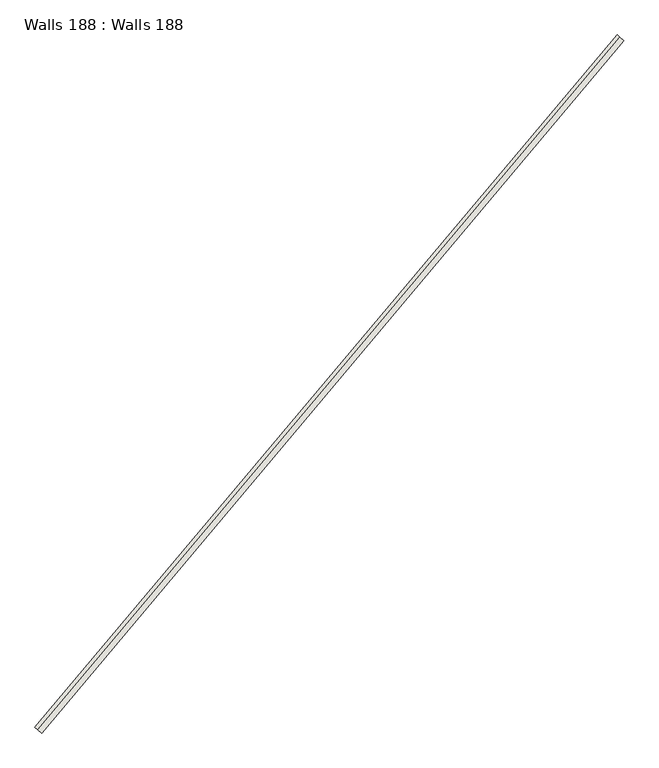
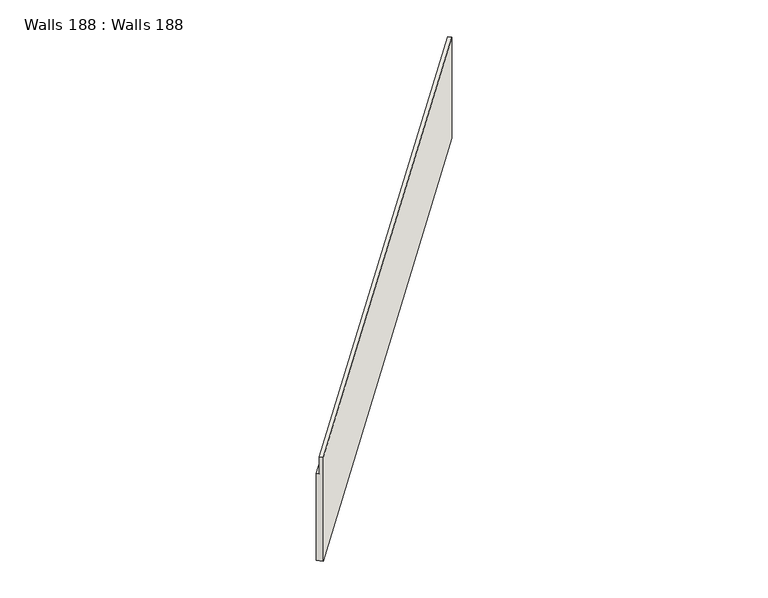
"""IFC4 building model written with IfcOpenShell, lengths in millimetres: wall geometry, Walls 188 : Walls 188."""

from ifc_helpers import new_model, si_unit, origin, place, context, project, spatial, faceted_brep, source, transform, mapped, element, save


def walls_188_walls_188_408e267f(model_context):
    return source(origin(), model_context, "Body", "Brep", [
        faceted_brep([(364085.3592354, 276138.9943464, 650890.0), (363932.2663801, 276267.6900248, 650890.0), (363932.2663801, 276267.6900248, 649890.0), (363817.4467385, 276364.2117836, 649890.0), (363817.4467385, 276364.2117836, 644720.0), (364085.3592354, 276138.9943464, 644720.0), (387107.874557, 303525.9482256, 651210.0), (387107.874557, 303525.9482256, 645210.0), (386839.9620601, 303751.1656627, 645210.0), (386839.9620601, 303751.1656627, 650210.0), (386954.7817016, 303654.6439039, 650210.0), (386954.7817016, 303654.6439039, 651210.0)], [[[0, 1, 2, 3, 4, 5]], [[6, 7, 8, 9, 10, 11]], [[6, 11, 1, 0]], [[11, 10, 2, 1]], [[10, 9, 3, 2]], [[9, 8, 4, 3]], [[8, 7, 5, 4]], [[7, 6, 0, 5]]]),
    ])


if __name__ == "__main__":
    model = new_model("IFC4")
    model_context = context("Model", 3, world=origin())
    ifc_project = project(units=[si_unit("LENGTHUNIT", "METRE", prefix="MILLI")], contexts=[model_context])
    site = spatial("IfcSite", under=ifc_project)
    building = spatial("IfcBuilding", under=site)
    placement = place(None, origin())
    walls_188_walls_188_shape = walls_188_walls_188_408e267f(model_context)
    element("IfcWall", 1, ObjectType="Walls 188 : Walls 188", at=placement, inside=building, context=model_context, shape_type="MappedRepresentation", body=[
        mapped(walls_188_walls_188_shape, transform((0.0, 0.0, 0.0), x_axis=(1.0, 0.0, 0.0), y_axis=(0.0, 1.0, 0.0), z_axis=(0.0, 0.0, 1.0))),
    ])
    save(model, "model.ifc")
